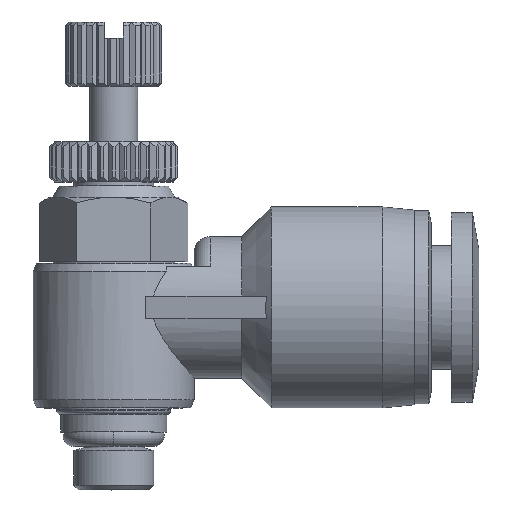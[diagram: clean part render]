
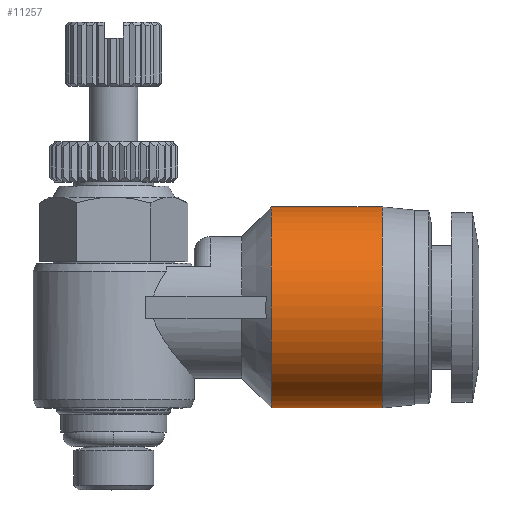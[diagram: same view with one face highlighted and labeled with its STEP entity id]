
A CAD part, top view. The second image highlights one B-rep face of the part: STEP entity #11257.
In plain terms, the highlighted cylindrical face has radius 6.25 mm (diameter 12.5 mm), a partial arc.
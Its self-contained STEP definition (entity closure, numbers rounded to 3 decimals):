
#209 = DIRECTION ( 'NONE',  ( -1., 0., 0. ) ) ;
#641 = CARTESIAN_POINT ( 'NONE',  ( 16.7, 5.263, 1.636 ) ) ;
#704 = CARTESIAN_POINT ( 'NONE',  ( 16.7, 9.714, 6.087 ) ) ;
#912 = CARTESIAN_POINT ( 'NONE',  ( 13.25, 17.6, 0. ) ) ;
#1188 = CARTESIAN_POINT ( 'NONE',  ( 9.8, 17.6, 0. ) ) ;
#1526 = CARTESIAN_POINT ( 'NONE',  ( 16.7, 15.191, 4.998 ) ) ;
#1713 = CARTESIAN_POINT ( 'NONE',  ( 16.7, 12.168, 6.25 ) ) ;
#1764 = B_SPLINE_CURVE_WITH_KNOTS ( 'NONE', 3,
 ( #7487, #3484, #7356, #9340, #4562, #1526, #5391, #12310, #1713, #9278, #704, #4435, #6464, #11239, #5582, #641, #4500, #7425 ),
 .UNSPECIFIED., .F., .F.,
 ( 4, 2, 2, 2, 2, 2, 2, 2, 4 ),
 ( 0.5, 0.563, 0.625, 0.688, 0.75, 0.813, 0.875, 0.938, 1. ),
 .UNSPECIFIED. ) ;
#1900 = VECTOR ( 'NONE', #5663, 1000. ) ;
#1932 = CARTESIAN_POINT ( 'NONE',  ( 9.8, 5.263, 1.636 ) ) ;
#1990 = CARTESIAN_POINT ( 'NONE',  ( 9.8, 16.348, 3.841 ) ) ;
#2120 = CARTESIAN_POINT ( 'NONE',  ( 9.8, 6.352, 3.841 ) ) ;
#2400 = VERTEX_POINT ( 'NONE', #4103 ) ;
#2554 = ORIENTED_EDGE ( 'NONE', *, *, #7395, .T. ) ;
#2877 = CARTESIAN_POINT ( 'NONE',  ( 9.8, 10.532, 6.25 ) ) ;
#3063 = CARTESIAN_POINT ( 'NONE',  ( 9.8, 7.509, 4.998 ) ) ;
#3315 = AXIS2_PLACEMENT_3D ( 'NONE', #6043, #209, #10865 ) ;
#3484 = CARTESIAN_POINT ( 'NONE',  ( 16.7, 17.6, 0.818 ) ) ;
#3515 = CARTESIAN_POINT ( 'NONE',  ( 9.8, 17.437, 1.636 ) ) ;
#3613 = B_SPLINE_CURVE_WITH_KNOTS ( 'NONE', 3,
 ( #4775, #12213, #3515, #10681, #1990, #4831, #11823, #5861, #11760, #2877, #6925, #10808, #3063, #2120, #3830, #1932, #5988, #12525 ),
 .UNSPECIFIED., .F., .F.,
 ( 4, 2, 2, 2, 2, 2, 2, 2, 4 ),
 ( 0.5, 0.562, 0.625, 0.687, 0.75, 0.813, 0.875, 0.938, 1. ),
 .UNSPECIFIED. ) ;
#3830 = CARTESIAN_POINT ( 'NONE',  ( 9.8, 5.889, 3.148 ) ) ;
#3836 = EDGE_CURVE ( 'NONE', #9021, #11104, #5280, .T. ) ;
#4103 = CARTESIAN_POINT ( 'NONE',  ( 16.7, 17.6, 0. ) ) ;
#4435 = CARTESIAN_POINT ( 'NONE',  ( 16.7, 8.202, 5.461 ) ) ;
#4500 = CARTESIAN_POINT ( 'NONE',  ( 16.7, 5.1, 0.818 ) ) ;
#4562 = CARTESIAN_POINT ( 'NONE',  ( 16.7, 16.348, 3.841 ) ) ;
#4775 = CARTESIAN_POINT ( 'NONE',  ( 9.8, 17.6, 0. ) ) ;
#4831 = CARTESIAN_POINT ( 'NONE',  ( 9.8, 15.191, 4.998 ) ) ;
#5004 = EDGE_CURVE ( 'NONE', #2400, #9021, #1764, .T. ) ;
#5280 = LINE ( 'NONE', #11121, #9004 ) ;
#5391 = CARTESIAN_POINT ( 'NONE',  ( 16.7, 14.498, 5.461 ) ) ;
#5582 = CARTESIAN_POINT ( 'NONE',  ( 16.7, 5.889, 3.148 ) ) ;
#5663 = DIRECTION ( 'NONE',  ( -1., 0., 0. ) ) ;
#5861 = CARTESIAN_POINT ( 'NONE',  ( 9.8, 12.986, 6.087 ) ) ;
#5915 = ORIENTED_EDGE ( 'NONE', *, *, #10101, .T. ) ;
#5988 = CARTESIAN_POINT ( 'NONE',  ( 9.8, 5.1, 0.818 ) ) ;
#6043 = CARTESIAN_POINT ( 'NONE',  ( 13.25, 11.35, 0. ) ) ;
#6464 = CARTESIAN_POINT ( 'NONE',  ( 16.7, 7.509, 4.998 ) ) ;
#6925 = CARTESIAN_POINT ( 'NONE',  ( 9.8, 9.714, 6.087 ) ) ;
#7057 = DIRECTION ( 'NONE',  ( -1., 0., 0. ) ) ;
#7144 = ORIENTED_EDGE ( 'NONE', *, *, #3836, .F. ) ;
#7356 = CARTESIAN_POINT ( 'NONE',  ( 16.7, 17.437, 1.636 ) ) ;
#7395 = EDGE_CURVE ( 'NONE', #9546, #11104, #3613, .T. ) ;
#7425 = CARTESIAN_POINT ( 'NONE',  ( 16.7, 5.1, 0. ) ) ;
#7487 = CARTESIAN_POINT ( 'NONE',  ( 16.7, 17.6, 0. ) ) ;
#8715 = FACE_OUTER_BOUND ( 'NONE', #9577, .T. ) ;
#8773 = CYLINDRICAL_SURFACE ( 'NONE', #3315, 6.25 ) ;
#8804 = ORIENTED_EDGE ( 'NONE', *, *, #5004, .F. ) ;
#9004 = VECTOR ( 'NONE', #7057, 1000. ) ;
#9021 = VERTEX_POINT ( 'NONE', #10542 ) ;
#9278 = CARTESIAN_POINT ( 'NONE',  ( 16.7, 10.532, 6.25 ) ) ;
#9302 = LINE ( 'NONE', #912, #1900 ) ;
#9340 = CARTESIAN_POINT ( 'NONE',  ( 16.7, 16.811, 3.148 ) ) ;
#9546 = VERTEX_POINT ( 'NONE', #1188 ) ;
#9577 = EDGE_LOOP ( 'NONE', ( #8804, #5915, #2554, #7144 ) ) ;
#10101 = EDGE_CURVE ( 'NONE', #2400, #9546, #9302, .T. ) ;
#10542 = CARTESIAN_POINT ( 'NONE',  ( 16.7, 5.1, 0. ) ) ;
#10681 = CARTESIAN_POINT ( 'NONE',  ( 9.8, 16.811, 3.148 ) ) ;
#10808 = CARTESIAN_POINT ( 'NONE',  ( 9.8, 8.202, 5.461 ) ) ;
#10865 = DIRECTION ( 'NONE',  ( 0., -1., 0. ) ) ;
#11104 = VERTEX_POINT ( 'NONE', #11445 ) ;
#11121 = CARTESIAN_POINT ( 'NONE',  ( 13.25, 5.1, 0. ) ) ;
#11239 = CARTESIAN_POINT ( 'NONE',  ( 16.7, 6.352, 3.841 ) ) ;
#11257 = ADVANCED_FACE ( 'NONE', ( #8715 ), #8773, .T. ) ;
#11445 = CARTESIAN_POINT ( 'NONE',  ( 9.8, 5.1, 0. ) ) ;
#11760 = CARTESIAN_POINT ( 'NONE',  ( 9.8, 12.168, 6.25 ) ) ;
#11823 = CARTESIAN_POINT ( 'NONE',  ( 9.8, 14.498, 5.461 ) ) ;
#12213 = CARTESIAN_POINT ( 'NONE',  ( 9.8, 17.6, 0.818 ) ) ;
#12310 = CARTESIAN_POINT ( 'NONE',  ( 16.7, 12.986, 6.087 ) ) ;
#12525 = CARTESIAN_POINT ( 'NONE',  ( 9.8, 5.1, 0. ) ) ;
